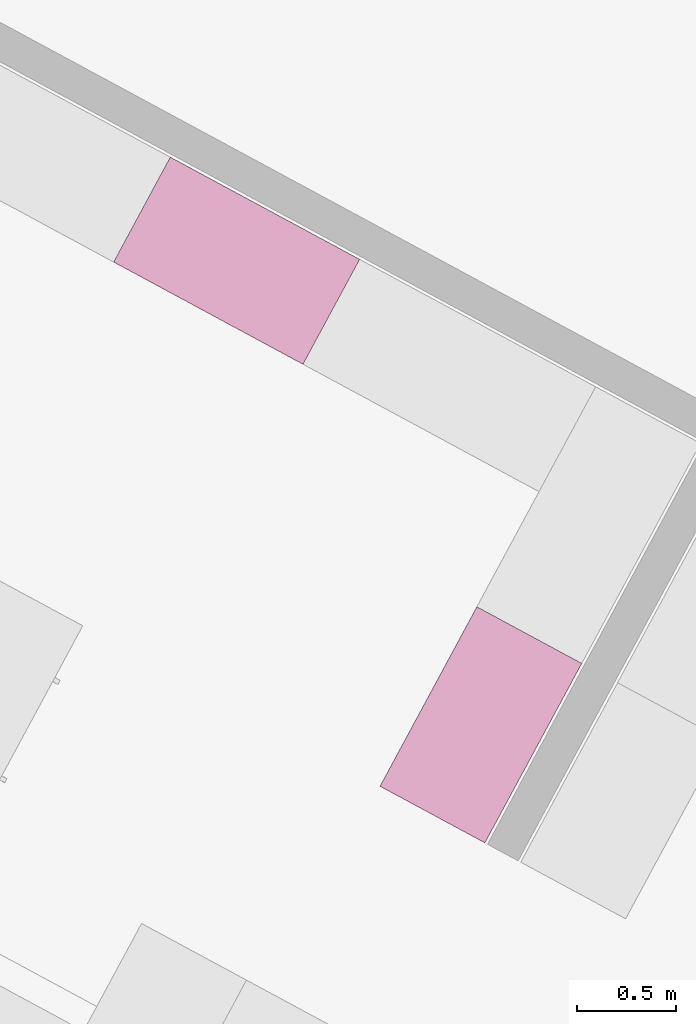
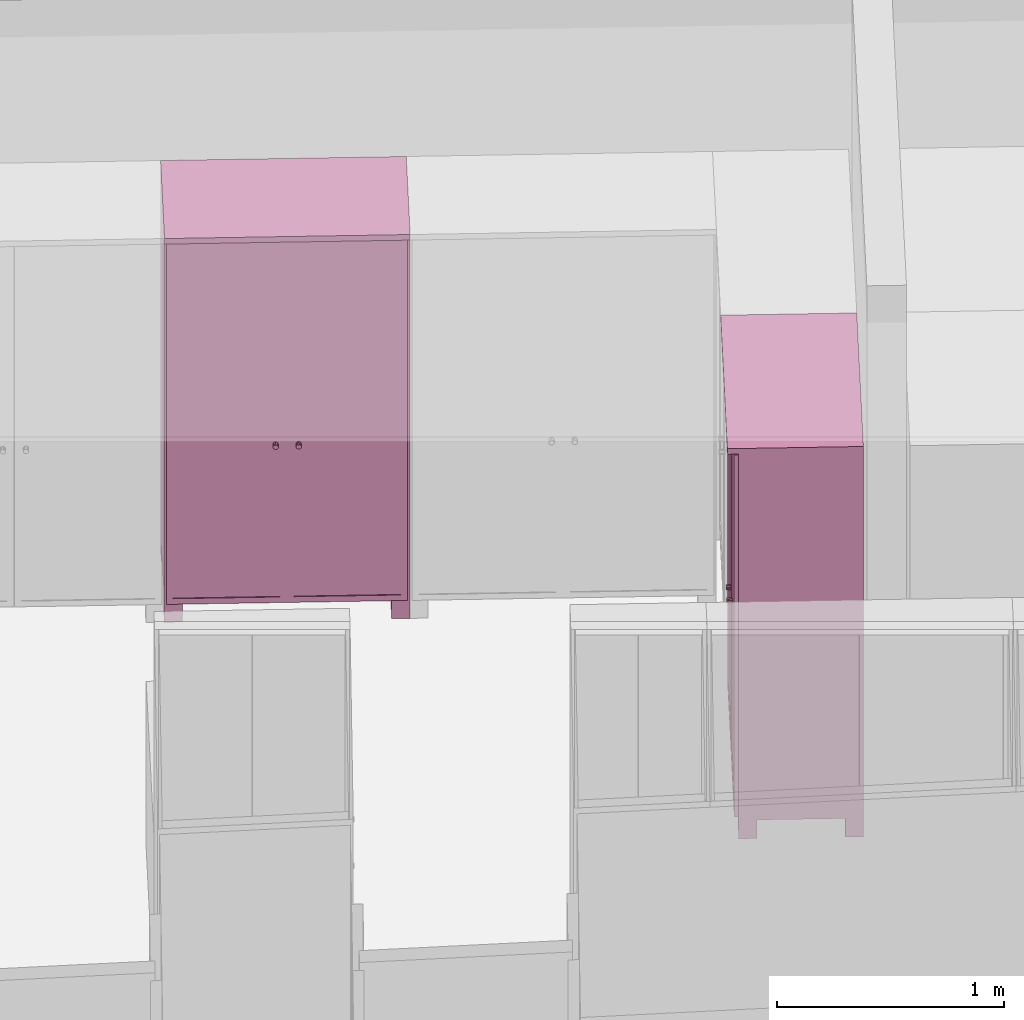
# One storey, part 32 of 41: 2 furnishings.
"""IFC2X3 building model written with IfcOpenShell, lengths in metres."""

from ifc_helpers import new_model, entity, si_unit, converted_unit, derived_unit, money_unit, direction, frame, origin_with_axes, place, context, subcontext, project, spatial, faceted_brep, type_object, element, save


model = new_model("IFC2X3")

# Units and contexts
model_context = context("Model", 3, precision=1e-05, world=origin_with_axes(), true_north=direction((0.0, 1.0)))
body_context = subcontext(model_context, "Body", "Model", "MODEL_VIEW")
ifc_project = project(units=[si_unit("LENGTHUNIT", "METRE"), si_unit("AREAUNIT", "SQUARE_METRE"), si_unit("VOLUMEUNIT", "CUBIC_METRE"), converted_unit("PLANEANGLEUNIT", "DEGREE", entity("IfcPlaneAngleMeasure", 0.0174532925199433), si_unit("PLANEANGLEUNIT", "RADIAN"), dimensions=[0, 0, 0, 0, 0, 0, 0]), money_unit("EUR"), converted_unit("TIMEUNIT", "Year", entity("IfcTimeMeasure", 31556926.0), si_unit("TIMEUNIT", "SECOND"), dimensions=[0, 0, 1, 0, 0, 0, 0]), si_unit("MASSUNIT", "GRAM", prefix="KILO"), si_unit("THERMODYNAMICTEMPERATUREUNIT", "DEGREE_CELSIUS"), si_unit("LUMINOUSINTENSITYUNIT", "LUMEN"), si_unit("ENERGYUNIT", "JOULE", prefix="MEGA"), derived_unit("THERMALCONDUCTANCEUNIT", [(si_unit("POWERUNIT", "WATT"), 1), (si_unit("LENGTHUNIT", "METRE"), -1), (si_unit("THERMODYNAMICTEMPERATUREUNIT", "KELVIN"), -1)]), derived_unit("SPECIFICHEATCAPACITYUNIT", [(si_unit("ENERGYUNIT", "JOULE"), 1), (si_unit("MASSUNIT", "GRAM", prefix="KILO"), -1), (si_unit("THERMODYNAMICTEMPERATUREUNIT", "KELVIN"), -1)]), derived_unit("MASSDENSITYUNIT", [(si_unit("MASSUNIT", "GRAM", prefix="KILO"), 1), (si_unit("VOLUMEUNIT", "CUBIC_METRE"), -1)])], contexts=[model_context])

# Site, building, storey
site_placement = place(None, frame((-3.949935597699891, 1.740105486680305, 0.0), z_axis=(0.0, 0.0, 1.0), x_axis=(0.8799804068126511, -0.475009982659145, 0.0)))
site = spatial("IfcSite", under=ifc_project, at=site_placement, Name="Gelände", CompositionType="ELEMENT")
building_placement = place(site_placement, origin_with_axes())
building = spatial("IfcBuilding", under=site, at=building_placement, Name="Gebäude", CompositionType="ELEMENT")
storey_placement = place(building_placement, frame((0.0, 0.0, 4.55), z_axis=(0.0, 0.0, 1.0), x_axis=(1.0, 0.0, 0.0)))
storey = spatial("IfcBuildingStorey", under=building, at=storey_placement, Name="Staffelgeschoss", CompositionType="ELEMENT", Elevation=4.55)

# Furnishings
furniture_type = type_object("IfcFurnitureType", Name="Kleiderschrank 22", AssemblyPlace="NOTDEFINED")
furnishing_1_placement = place(storey_placement, frame((15.97849488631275, 4.444526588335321, 0.0), z_axis=(0.0, 0.0, 1.0), x_axis=(0.0, -1.0, 0.0)))
element("IfcFurnishingElement", 1, at=furnishing_1_placement, inside=storey, type_object=furniture_type, Name="Objekt-0066", ObjectType="FURNITURE", context=body_context, shape_type="Brep", body=[
    faceted_brep([(0.02000000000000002, 0.6000000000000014, 0.12), (0.02000000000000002, 0.5800000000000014, 0.12), (0.02000000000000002, 0.5800000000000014, 2.05), (0.02000000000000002, 0.6000000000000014, 2.05), (1.006465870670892, 0.6000000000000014, 0.12), (1.006465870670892, 0.5800000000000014, 0.12), (1.006465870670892, 0.5800000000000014, 2.05), (1.006465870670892, 0.6000000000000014, 2.05)], [[[0, 1, 2, 3]], [[0, 4, 5, 1]], [[1, 5, 6, 2]], [[3, 2, 6, 7]], [[4, 0, 3, 7]], [[5, 4, 7, 6]]]),
    faceted_brep([(1.026465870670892, 0.05000000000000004, 0.1), (1.006465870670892, 0.05000000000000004, 0.1), (1.006465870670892, 0.6000000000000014, 0.1), (1.026465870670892, 0.6000000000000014, 0.1), (1.026465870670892, 0.05000000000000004, 2.07), (1.006465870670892, 0.05000000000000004, 2.07), (1.006465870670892, 0.6000000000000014, 2.07), (1.026465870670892, 0.6000000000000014, 2.07)], [[[0, 1, 2, 3]], [[1, 0, 4, 5]], [[2, 1, 5, 6]], [[3, 2, 6, 7]], [[0, 3, 7, 4]], [[5, 4, 7, 6]]]),
    faceted_brep([(0.02, 0.05000000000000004, 0.1), (0.0, 0.05000000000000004, 0.1), (0.0, 0.6000000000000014, 0.1), (0.02, 0.6000000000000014, 0.1), (0.02, 0.05000000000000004, 2.07), (0.0, 0.05000000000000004, 2.07), (0.0, 0.6000000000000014, 2.07), (0.02, 0.6000000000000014, 2.07)], [[[0, 1, 2, 3]], [[1, 0, 4, 5]], [[2, 1, 5, 6]], [[3, 2, 6, 7]], [[0, 3, 7, 4]], [[5, 4, 7, 6]]]),
    faceted_brep([(1.006465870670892, 0.05000000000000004, 0.1), (0.02000000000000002, 0.05000000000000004, 0.1), (0.02000000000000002, 0.6000000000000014, 0.1), (1.006465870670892, 0.6000000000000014, 0.1), (1.006465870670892, 0.05000000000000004, 0.12), (0.02000000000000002, 0.05000000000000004, 0.12), (0.02000000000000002, 0.6000000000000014, 0.12), (1.006465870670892, 0.6000000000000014, 0.12)], [[[0, 1, 2, 3]], [[1, 0, 4, 5]], [[2, 1, 5, 6]], [[3, 2, 6, 7]], [[0, 3, 7, 4]], [[5, 4, 7, 6]]]),
    faceted_brep([(1.006465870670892, 0.05000000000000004, 2.05), (0.02000000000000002, 0.05000000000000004, 2.05), (0.02000000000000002, 0.6000000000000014, 2.05), (1.006465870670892, 0.6000000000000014, 2.05), (1.006465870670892, 0.05000000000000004, 2.07), (0.02000000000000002, 0.05000000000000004, 2.07), (0.02000000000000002, 0.6000000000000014, 2.07), (1.006465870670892, 0.6000000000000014, 2.07)], [[[0, 1, 2, 3]], [[1, 0, 4, 5]], [[2, 1, 5, 6]], [[3, 2, 6, 7]], [[0, 3, 7, 4]], [[5, 4, 7, 6]]]),
    faceted_brep([(1.026465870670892, 0.6000000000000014, 2.07), (1.026465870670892, 0.6000000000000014, 2.1), (1.026465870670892, 0.0, 2.1), (1.026465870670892, 0.0, 2.07), (0.0, 0.6000000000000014, 2.07), (0.0, 0.6000000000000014, 2.1), (0.0, 0.0, 2.1), (0.0, 0.0, 2.07)], [[[0, 1, 2, 3]], [[4, 5, 1, 0]], [[1, 5, 6, 2]], [[3, 2, 6, 7]], [[0, 3, 7, 4]], [[7, 6, 5, 4]]]),
    faceted_brep([(0.07999999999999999, 0.5200000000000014, 0.0), (0.07999999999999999, 0.6000000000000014, 0.0), (0.07999999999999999, 0.6000000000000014, 0.1), (0.07999999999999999, 0.5200000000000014, 0.1), (0.0, 0.5200000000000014, 0.0), (0.0, 0.6000000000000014, 0.0), (0.0, 0.6000000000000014, 0.1), (0.0, 0.5200000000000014, 0.1)], [[[0, 1, 2, 3]], [[0, 4, 5, 1]], [[1, 5, 6, 2]], [[3, 2, 6, 7]], [[4, 0, 3, 7]], [[5, 4, 7, 6]]]),
    faceted_brep([(1.026465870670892, 0.5200000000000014, 0.0), (1.026465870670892, 0.6000000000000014, 0.0), (1.026465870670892, 0.6000000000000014, 0.1), (1.026465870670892, 0.5200000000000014, 0.1), (0.9464658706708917, 0.5200000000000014, 0.0), (0.9464658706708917, 0.6000000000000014, 0.0), (0.9464658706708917, 0.6000000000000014, 0.1), (0.9464658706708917, 0.5200000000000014, 0.1)], [[[0, 1, 2, 3]], [[0, 4, 5, 1]], [[1, 5, 6, 2]], [[3, 2, 6, 7]], [[4, 0, 3, 7]], [[5, 4, 7, 6]]]),
    faceted_brep([(0.07999999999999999, 0.05000000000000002, 0.0), (0.07999999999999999, 0.13, 0.0), (0.07999999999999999, 0.13, 0.1), (0.07999999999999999, 0.05000000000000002, 0.1), (0.0, 0.05000000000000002, 0.0), (0.0, 0.13, 0.0), (0.0, 0.13, 0.1), (0.0, 0.05000000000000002, 0.1)], [[[0, 1, 2, 3]], [[0, 4, 5, 1]], [[1, 5, 6, 2]], [[3, 2, 6, 7]], [[4, 0, 3, 7]], [[5, 4, 7, 6]]]),
    faceted_brep([(1.026465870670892, 0.05000000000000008, 0.0), (1.026465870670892, 0.1300000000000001, 0.0), (1.026465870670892, 0.1300000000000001, 0.1), (1.026465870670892, 0.05000000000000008, 0.1), (0.9464658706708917, 0.05000000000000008, 0.0), (0.9464658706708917, 0.1300000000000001, 0.0), (0.9464658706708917, 0.1300000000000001, 0.1), (0.9464658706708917, 0.05000000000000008, 0.1)], [[[0, 1, 2, 3]], [[0, 4, 5, 1]], [[1, 5, 6, 2]], [[3, 2, 6, 7]], [[4, 0, 3, 7]], [[5, 4, 7, 6]]]),
    faceted_brep([(0.512732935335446, 0.05, 0.1104999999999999), (0.512732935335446, 0.05000000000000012, 2.0595), (0.512732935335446, 0.03000000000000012, 2.0595), (0.512732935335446, 0.03, 0.1104999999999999), (0.4827329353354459, 0.05, 0.1405), (0.4827329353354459, 0.05000000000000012, 2.0295), (0.4827329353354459, 0.03000000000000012, 2.0295), (0.4827329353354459, 0.03000000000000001, 0.1405)], [[[0, 1, 2, 3]], [[0, 4, 5, 1]], [[1, 5, 6, 2]], [[3, 2, 6, 7]], [[4, 0, 3, 7]], [[5, 4, 7, 6]]]),
    faceted_brep([(0.04050000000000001, 0.05, 0.1405), (0.04050000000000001, 0.05000000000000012, 2.0295), (0.04050000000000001, 0.03000000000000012, 2.0295), (0.04050000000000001, 0.03000000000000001, 0.1405), (0.01050000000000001, 0.05, 0.1104999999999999), (0.01050000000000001, 0.05000000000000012, 2.0595), (0.01050000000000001, 0.03000000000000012, 2.0595), (0.01050000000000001, 0.03, 0.1104999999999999)], [[[0, 1, 2, 3]], [[0, 4, 5, 1]], [[1, 5, 6, 2]], [[3, 2, 6, 7]], [[4, 0, 3, 7]], [[5, 4, 7, 6]]]),
    faceted_brep([(0.01050000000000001, 0.05, 0.1104999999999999), (0.512732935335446, 0.05, 0.1104999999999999), (0.512732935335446, 0.03, 0.1104999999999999), (0.01050000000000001, 0.03, 0.1104999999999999), (0.04050000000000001, 0.05, 0.1405), (0.4827329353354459, 0.05, 0.1405), (0.4827329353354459, 0.03000000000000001, 0.1405), (0.04050000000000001, 0.03000000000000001, 0.1405)], [[[0, 1, 2, 3]], [[0, 4, 5, 1]], [[1, 5, 6, 2]], [[3, 2, 6, 7]], [[4, 0, 3, 7]], [[5, 4, 7, 6]]]),
    faceted_brep([(0.04050000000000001, 0.05000000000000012, 2.0295), (0.4827329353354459, 0.05000000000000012, 2.0295), (0.4827329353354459, 0.03000000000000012, 2.0295), (0.04050000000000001, 0.03000000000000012, 2.0295), (0.01050000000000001, 0.05000000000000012, 2.0595), (0.512732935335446, 0.05000000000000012, 2.0595), (0.512732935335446, 0.03000000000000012, 2.0595), (0.01050000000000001, 0.03000000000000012, 2.0595)], [[[0, 1, 2, 3]], [[0, 4, 5, 1]], [[1, 5, 6, 2]], [[3, 2, 6, 7]], [[4, 0, 3, 7]], [[5, 4, 7, 6]]]),
    faceted_brep([(0.4827329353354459, 0.04500000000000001, 0.1405), (0.4827329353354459, 0.04500000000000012, 2.0295), (0.4827329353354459, 0.03500000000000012, 2.0295), (0.4827329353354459, 0.035, 0.1405), (0.04050000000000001, 0.04500000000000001, 0.1405), (0.04050000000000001, 0.04500000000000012, 2.0295), (0.04050000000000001, 0.03500000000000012, 2.0295), (0.04050000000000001, 0.035, 0.1405)], [[[0, 1, 2, 3]], [[0, 4, 5, 1]], [[1, 5, 6, 2]], [[3, 2, 6, 7]], [[4, 0, 3, 7]], [[5, 4, 7, 6]]]),
    faceted_brep([(0.4726252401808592, 0.035, 0.954), (0.4682329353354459, 0.035, 0.9496076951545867), (0.4622329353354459, 0.035, 0.948), (0.4562329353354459, 0.035, 0.9496076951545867), (0.4518406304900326, 0.035, 0.954), (0.4502329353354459, 0.035, 0.96), (0.4518406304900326, 0.035, 0.966), (0.4562329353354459, 0.035, 0.9703923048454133), (0.4622329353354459, 0.035, 0.972), (0.4682329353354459, 0.035, 0.9703923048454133), (0.4726252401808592, 0.035, 0.966), (0.4742329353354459, 0.035, 0.96), (0.4726252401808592, 0.01, 0.954), (0.4682329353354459, 0.01, 0.9496076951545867), (0.4622329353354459, 0.01, 0.948), (0.4562329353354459, 0.01, 0.9496076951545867), (0.4518406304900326, 0.01, 0.954), (0.4502329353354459, 0.01, 0.96), (0.4518406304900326, 0.01, 0.966), (0.4562329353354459, 0.01, 0.9703923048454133), (0.4622329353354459, 0.01, 0.972), (0.4682329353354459, 0.01, 0.9703923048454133), (0.4726252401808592, 0.01, 0.966), (0.4742329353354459, 0.01, 0.96)], [[[0, 1, 2, 3, 4, 5, 6, 7, 8, 9, 10, 11]], [[1, 0, 12, 13]], [[2, 1, 13, 14]], [[3, 2, 14, 15]], [[4, 3, 15, 16]], [[5, 4, 16, 17]], [[6, 5, 17, 18]], [[7, 6, 18, 19]], [[8, 7, 19, 20]], [[9, 8, 20, 21]], [[10, 9, 21, 22]], [[11, 10, 22, 23]], [[0, 11, 23, 12]], [[12, 23, 22, 21, 20, 19, 18, 17, 16, 15, 14, 13]]]),
    faceted_brep([(1.016965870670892, 0.05, 0.1104999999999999), (1.016965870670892, 0.05000000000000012, 2.0595), (1.016965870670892, 0.03000000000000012, 2.0595), (1.016965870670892, 0.03, 0.1104999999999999), (0.9869658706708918, 0.05, 0.1405), (0.9869658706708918, 0.05000000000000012, 2.0295), (0.9869658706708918, 0.03000000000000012, 2.0295), (0.9869658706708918, 0.03000000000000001, 0.1405)], [[[0, 1, 2, 3]], [[0, 4, 5, 1]], [[1, 5, 6, 2]], [[3, 2, 6, 7]], [[4, 0, 3, 7]], [[5, 4, 7, 6]]]),
    faceted_brep([(0.5447329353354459, 0.05, 0.1405), (0.5447329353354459, 0.05000000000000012, 2.0295), (0.5447329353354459, 0.03000000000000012, 2.0295), (0.5447329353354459, 0.03000000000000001, 0.1405), (0.514732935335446, 0.05, 0.1104999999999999), (0.514732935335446, 0.05000000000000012, 2.0595), (0.514732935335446, 0.03000000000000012, 2.0595), (0.514732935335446, 0.03, 0.1104999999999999)], [[[0, 1, 2, 3]], [[0, 4, 5, 1]], [[1, 5, 6, 2]], [[3, 2, 6, 7]], [[4, 0, 3, 7]], [[5, 4, 7, 6]]]),
    faceted_brep([(0.514732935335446, 0.05, 0.1104999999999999), (1.016965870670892, 0.05, 0.1104999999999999), (1.016965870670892, 0.03, 0.1104999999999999), (0.514732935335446, 0.03, 0.1104999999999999), (0.5447329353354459, 0.05, 0.1405), (0.9869658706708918, 0.05, 0.1405), (0.9869658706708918, 0.03000000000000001, 0.1405), (0.5447329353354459, 0.03000000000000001, 0.1405)], [[[0, 1, 2, 3]], [[0, 4, 5, 1]], [[1, 5, 6, 2]], [[3, 2, 6, 7]], [[4, 0, 3, 7]], [[5, 4, 7, 6]]]),
    faceted_brep([(0.5447329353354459, 0.05000000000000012, 2.0295), (0.9869658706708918, 0.05000000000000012, 2.0295), (0.9869658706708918, 0.03000000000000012, 2.0295), (0.5447329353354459, 0.03000000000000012, 2.0295), (0.514732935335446, 0.05000000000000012, 2.0595), (1.016965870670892, 0.05000000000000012, 2.0595), (1.016965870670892, 0.03000000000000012, 2.0595), (0.514732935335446, 0.03000000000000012, 2.0595)], [[[0, 1, 2, 3]], [[0, 4, 5, 1]], [[1, 5, 6, 2]], [[3, 2, 6, 7]], [[4, 0, 3, 7]], [[5, 4, 7, 6]]]),
    faceted_brep([(0.9869658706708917, 0.04500000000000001, 0.1405), (0.9869658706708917, 0.04500000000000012, 2.0295), (0.9869658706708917, 0.04000000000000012, 2.0295), (0.9869658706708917, 0.04000000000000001, 0.1405), (0.5447329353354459, 0.04500000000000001, 0.1405), (0.5447329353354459, 0.04500000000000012, 2.0295), (0.5447329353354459, 0.04000000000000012, 2.0295), (0.5447329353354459, 0.04000000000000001, 0.1405)], [[[0, 1, 2, 3]], [[0, 4, 5, 1]], [[1, 5, 6, 2]], [[3, 2, 6, 7]], [[4, 0, 3, 7]], [[5, 4, 7, 6]]]),
    faceted_brep([(0.9869658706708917, 0.04000000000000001, 0.1405), (0.9869658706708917, 0.04000000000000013, 2.0295), (0.9869658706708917, 0.03500000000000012, 2.0295), (0.9869658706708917, 0.03500000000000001, 0.1405), (0.5447329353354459, 0.04000000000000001, 0.1405), (0.5447329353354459, 0.04000000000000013, 2.0295), (0.5447329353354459, 0.03500000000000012, 2.0295), (0.5447329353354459, 0.03500000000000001, 0.1405)], [[[0, 1, 2, 3]], [[0, 4, 5, 1]], [[1, 5, 6, 2]], [[3, 2, 6, 7]], [[4, 0, 3, 7]], [[5, 4, 7, 6]]]),
    faceted_brep([(0.5538406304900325, 0.035, 0.954), (0.5522329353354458, 0.035, 0.96), (0.5538406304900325, 0.035, 0.966), (0.5582329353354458, 0.035, 0.9703923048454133), (0.5642329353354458, 0.035, 0.972), (0.5702329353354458, 0.035, 0.9703923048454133), (0.5746252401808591, 0.035, 0.966), (0.5762329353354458, 0.035, 0.96), (0.5746252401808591, 0.035, 0.954), (0.5702329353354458, 0.035, 0.9496076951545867), (0.5642329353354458, 0.035, 0.948), (0.5582329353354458, 0.035, 0.9496076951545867), (0.5538406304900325, 0.01, 0.954), (0.5522329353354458, 0.01, 0.96), (0.5538406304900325, 0.01, 0.966), (0.5582329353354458, 0.01, 0.9703923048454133), (0.5642329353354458, 0.01, 0.972), (0.5702329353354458, 0.01, 0.9703923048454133), (0.5746252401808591, 0.01, 0.966), (0.5762329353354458, 0.01, 0.96), (0.5746252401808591, 0.01, 0.954), (0.5702329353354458, 0.01, 0.9496076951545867), (0.5642329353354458, 0.01, 0.948), (0.5582329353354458, 0.01, 0.9496076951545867)], [[[0, 1, 2, 3, 4, 5, 6, 7, 8, 9, 10, 11]], [[0, 12, 13, 1]], [[1, 13, 14, 2]], [[2, 14, 15, 3]], [[3, 15, 16, 4]], [[4, 16, 17, 5]], [[5, 17, 18, 6]], [[6, 18, 19, 7]], [[7, 19, 20, 8]], [[8, 20, 21, 9]], [[9, 21, 22, 10]], [[10, 22, 23, 11]], [[11, 23, 12, 0]], [[12, 23, 22, 21, 20, 19, 18, 17, 16, 15, 14, 13]]]),
])
furnishing_2_placement = place(storey_placement, frame((14.62849488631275, 5.103060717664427, 0.0), z_axis=(0.0, 0.0, 1.0), x_axis=(1.0, 0.0, 0.0)))
element("IfcFurnishingElement", 2, at=furnishing_2_placement, inside=storey, type_object=furniture_type, Name="Objekt-0066", ObjectType="FURNITURE", context=body_context, shape_type="Brep", body=[
    faceted_brep([(-0.02000000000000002, 0.6000000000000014, 0.12), (-0.02000000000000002, 0.6000000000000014, 2.05), (-0.02000000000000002, 0.5800000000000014, 2.05), (-0.02000000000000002, 0.5800000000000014, 0.12), (-1.06329932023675, 0.6000000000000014, 0.12), (-1.06329932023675, 0.6000000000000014, 2.05), (-1.06329932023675, 0.5800000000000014, 2.05), (-1.06329932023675, 0.5800000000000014, 0.12)], [[[0, 1, 2, 3]], [[4, 5, 1, 0]], [[1, 5, 6, 2]], [[3, 2, 6, 7]], [[0, 3, 7, 4]], [[7, 6, 5, 4]]]),
    faceted_brep([(-1.08329932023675, 0.05000000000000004, 0.1), (-1.08329932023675, 0.6000000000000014, 0.1), (-1.06329932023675, 0.6000000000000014, 0.1), (-1.06329932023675, 0.05000000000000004, 0.1), (-1.08329932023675, 0.05000000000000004, 2.07), (-1.08329932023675, 0.6000000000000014, 2.07), (-1.06329932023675, 0.6000000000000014, 2.07), (-1.06329932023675, 0.05000000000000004, 2.07)], [[[0, 1, 2, 3]], [[0, 4, 5, 1]], [[1, 5, 6, 2]], [[2, 6, 7, 3]], [[3, 7, 4, 0]], [[7, 6, 5, 4]]]),
    faceted_brep([(-0.02, 0.05000000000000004, 0.1), (-0.02, 0.6000000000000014, 0.1), (0.0, 0.6000000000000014, 0.1), (0.0, 0.05000000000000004, 0.1), (-0.02, 0.05000000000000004, 2.07), (-0.02, 0.6000000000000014, 2.07), (0.0, 0.6000000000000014, 2.07), (0.0, 0.05000000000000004, 2.07)], [[[0, 1, 2, 3]], [[0, 4, 5, 1]], [[1, 5, 6, 2]], [[2, 6, 7, 3]], [[3, 7, 4, 0]], [[7, 6, 5, 4]]]),
    faceted_brep([(-1.06329932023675, 0.05000000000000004, 0.1), (-1.06329932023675, 0.6000000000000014, 0.1), (-0.02000000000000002, 0.6000000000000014, 0.1), (-0.02000000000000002, 0.05000000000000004, 0.1), (-1.06329932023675, 0.05000000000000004, 0.12), (-1.06329932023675, 0.6000000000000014, 0.12), (-0.02000000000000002, 0.6000000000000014, 0.12), (-0.02000000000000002, 0.05000000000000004, 0.12)], [[[0, 1, 2, 3]], [[0, 4, 5, 1]], [[1, 5, 6, 2]], [[2, 6, 7, 3]], [[3, 7, 4, 0]], [[7, 6, 5, 4]]]),
    faceted_brep([(-1.06329932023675, 0.05000000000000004, 2.05), (-1.06329932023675, 0.6000000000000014, 2.05), (-0.02000000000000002, 0.6000000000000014, 2.05), (-0.02000000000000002, 0.05000000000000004, 2.05), (-1.06329932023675, 0.05000000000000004, 2.07), (-1.06329932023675, 0.6000000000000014, 2.07), (-0.02000000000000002, 0.6000000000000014, 2.07), (-0.02000000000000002, 0.05000000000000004, 2.07)], [[[0, 1, 2, 3]], [[0, 4, 5, 1]], [[1, 5, 6, 2]], [[2, 6, 7, 3]], [[3, 7, 4, 0]], [[7, 6, 5, 4]]]),
    faceted_brep([(-1.08329932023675, 0.6000000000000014, 2.07), (-1.08329932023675, 0.0, 2.07), (-1.08329932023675, 0.0, 2.1), (-1.08329932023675, 0.6000000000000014, 2.1), (0.0, 0.6000000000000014, 2.07), (0.0, 0.0, 2.07), (0.0, 0.0, 2.1), (0.0, 0.6000000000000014, 2.1)], [[[0, 1, 2, 3]], [[0, 4, 5, 1]], [[1, 5, 6, 2]], [[3, 2, 6, 7]], [[4, 0, 3, 7]], [[5, 4, 7, 6]]]),
    faceted_brep([(-0.08000000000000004, 0.5200000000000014, 0.0), (-0.08000000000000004, 0.5200000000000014, 0.1), (-0.08000000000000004, 0.6000000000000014, 0.1), (-0.08000000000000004, 0.6000000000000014, 0.0), (0.0, 0.5200000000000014, 0.0), (0.0, 0.5200000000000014, 0.1), (0.0, 0.6000000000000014, 0.1), (0.0, 0.6000000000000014, 0.0)], [[[0, 1, 2, 3]], [[4, 5, 1, 0]], [[1, 5, 6, 2]], [[3, 2, 6, 7]], [[0, 3, 7, 4]], [[7, 6, 5, 4]]]),
    faceted_brep([(-1.08329932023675, 0.5200000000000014, 0.0), (-1.08329932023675, 0.5200000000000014, 0.1), (-1.08329932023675, 0.6000000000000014, 0.1), (-1.08329932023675, 0.6000000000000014, 0.0), (-1.00329932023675, 0.5200000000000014, 0.0), (-1.00329932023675, 0.5200000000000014, 0.1), (-1.00329932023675, 0.6000000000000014, 0.1), (-1.00329932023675, 0.6000000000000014, 0.0)], [[[0, 1, 2, 3]], [[4, 5, 1, 0]], [[1, 5, 6, 2]], [[3, 2, 6, 7]], [[0, 3, 7, 4]], [[7, 6, 5, 4]]]),
    faceted_brep([(-0.08000000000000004, 0.05000000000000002, 0.0), (-0.08000000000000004, 0.05000000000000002, 0.1), (-0.08000000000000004, 0.13, 0.1), (-0.08000000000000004, 0.13, 0.0), (0.0, 0.05000000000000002, 0.0), (0.0, 0.05000000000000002, 0.1), (0.0, 0.13, 0.1), (0.0, 0.13, 0.0)], [[[0, 1, 2, 3]], [[4, 5, 1, 0]], [[1, 5, 6, 2]], [[3, 2, 6, 7]], [[0, 3, 7, 4]], [[7, 6, 5, 4]]]),
    faceted_brep([(-1.08329932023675, 0.05000000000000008, 0.0), (-1.08329932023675, 0.05000000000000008, 0.1), (-1.08329932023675, 0.1300000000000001, 0.1), (-1.08329932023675, 0.1300000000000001, 0.0), (-1.00329932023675, 0.05000000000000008, 0.0), (-1.00329932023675, 0.05000000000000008, 0.1), (-1.00329932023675, 0.1300000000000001, 0.1), (-1.00329932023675, 0.1300000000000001, 0.0)], [[[0, 1, 2, 3]], [[4, 5, 1, 0]], [[1, 5, 6, 2]], [[3, 2, 6, 7]], [[0, 3, 7, 4]], [[7, 6, 5, 4]]]),
    faceted_brep([(-0.541149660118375, 0.05, 0.1104999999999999), (-0.541149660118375, 0.03, 0.1104999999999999), (-0.541149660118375, 0.03000000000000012, 2.0595), (-0.541149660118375, 0.05000000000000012, 2.0595), (-0.5111496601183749, 0.05, 0.1405), (-0.5111496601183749, 0.03000000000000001, 0.1405), (-0.5111496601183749, 0.03000000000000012, 2.0295), (-0.5111496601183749, 0.05000000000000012, 2.0295)], [[[0, 1, 2, 3]], [[4, 5, 1, 0]], [[1, 5, 6, 2]], [[3, 2, 6, 7]], [[0, 3, 7, 4]], [[7, 6, 5, 4]]]),
    faceted_brep([(-0.04050000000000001, 0.05, 0.1405), (-0.04050000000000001, 0.03000000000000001, 0.1405), (-0.04050000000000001, 0.03000000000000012, 2.0295), (-0.04050000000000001, 0.05000000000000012, 2.0295), (-0.01050000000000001, 0.05, 0.1104999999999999), (-0.01050000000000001, 0.03, 0.1104999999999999), (-0.01050000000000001, 0.03000000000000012, 2.0595), (-0.01050000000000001, 0.05000000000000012, 2.0595)], [[[0, 1, 2, 3]], [[4, 5, 1, 0]], [[1, 5, 6, 2]], [[3, 2, 6, 7]], [[0, 3, 7, 4]], [[7, 6, 5, 4]]]),
    faceted_brep([(-0.01050000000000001, 0.05, 0.1104999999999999), (-0.01050000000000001, 0.03, 0.1104999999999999), (-0.541149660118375, 0.03, 0.1104999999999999), (-0.541149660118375, 0.05, 0.1104999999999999), (-0.04050000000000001, 0.05, 0.1405), (-0.04050000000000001, 0.03000000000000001, 0.1405), (-0.5111496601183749, 0.03000000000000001, 0.1405), (-0.5111496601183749, 0.05, 0.1405)], [[[0, 1, 2, 3]], [[4, 5, 1, 0]], [[1, 5, 6, 2]], [[3, 2, 6, 7]], [[0, 3, 7, 4]], [[7, 6, 5, 4]]]),
    faceted_brep([(-0.04050000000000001, 0.05000000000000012, 2.0295), (-0.04050000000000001, 0.03000000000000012, 2.0295), (-0.5111496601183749, 0.03000000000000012, 2.0295), (-0.5111496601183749, 0.05000000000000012, 2.0295), (-0.01050000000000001, 0.05000000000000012, 2.0595), (-0.01050000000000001, 0.03000000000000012, 2.0595), (-0.541149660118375, 0.03000000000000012, 2.0595), (-0.541149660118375, 0.05000000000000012, 2.0595)], [[[0, 1, 2, 3]], [[4, 5, 1, 0]], [[1, 5, 6, 2]], [[3, 2, 6, 7]], [[0, 3, 7, 4]], [[7, 6, 5, 4]]]),
    faceted_brep([(-0.5111496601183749, 0.04500000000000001, 0.1405), (-0.5111496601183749, 0.035, 0.1405), (-0.5111496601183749, 0.03500000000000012, 2.0295), (-0.5111496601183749, 0.04500000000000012, 2.0295), (-0.04050000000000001, 0.04500000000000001, 0.1405), (-0.04050000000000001, 0.035, 0.1405), (-0.04050000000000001, 0.03500000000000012, 2.0295), (-0.04050000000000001, 0.04500000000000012, 2.0295)], [[[0, 1, 2, 3]], [[4, 5, 1, 0]], [[1, 5, 6, 2]], [[3, 2, 6, 7]], [[0, 3, 7, 4]], [[7, 6, 5, 4]]]),
    faceted_brep([(-0.5010419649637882, 0.035, 0.954), (-0.5026496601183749, 0.035, 0.96), (-0.5010419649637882, 0.035, 0.966), (-0.4966496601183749, 0.035, 0.9703923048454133), (-0.4906496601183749, 0.035, 0.972), (-0.4846496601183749, 0.035, 0.9703923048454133), (-0.4802573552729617, 0.035, 0.966), (-0.4786496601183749, 0.035, 0.96), (-0.4802573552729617, 0.035, 0.954), (-0.4846496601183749, 0.035, 0.9496076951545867), (-0.4906496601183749, 0.035, 0.948), (-0.4966496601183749, 0.035, 0.9496076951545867), (-0.5010419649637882, 0.01, 0.954), (-0.5026496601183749, 0.01, 0.96), (-0.5010419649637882, 0.01, 0.966), (-0.4966496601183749, 0.01, 0.9703923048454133), (-0.4906496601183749, 0.01, 0.972), (-0.4846496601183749, 0.01, 0.9703923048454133), (-0.4802573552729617, 0.01, 0.966), (-0.4786496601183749, 0.01, 0.96), (-0.4802573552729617, 0.01, 0.954), (-0.4846496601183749, 0.01, 0.9496076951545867), (-0.4906496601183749, 0.01, 0.948), (-0.4966496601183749, 0.01, 0.9496076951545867)], [[[0, 1, 2, 3, 4, 5, 6, 7, 8, 9, 10, 11]], [[0, 12, 13, 1]], [[1, 13, 14, 2]], [[2, 14, 15, 3]], [[3, 15, 16, 4]], [[4, 16, 17, 5]], [[5, 17, 18, 6]], [[6, 18, 19, 7]], [[7, 19, 20, 8]], [[8, 20, 21, 9]], [[9, 21, 22, 10]], [[10, 22, 23, 11]], [[11, 23, 12, 0]], [[12, 23, 22, 21, 20, 19, 18, 17, 16, 15, 14, 13]]]),
    faceted_brep([(-1.07379932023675, 0.05, 0.1104999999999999), (-1.07379932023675, 0.03, 0.1104999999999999), (-1.07379932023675, 0.03000000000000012, 2.0595), (-1.07379932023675, 0.05000000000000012, 2.0595), (-1.04379932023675, 0.05, 0.1405), (-1.04379932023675, 0.03000000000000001, 0.1405), (-1.04379932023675, 0.03000000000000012, 2.0295), (-1.04379932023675, 0.05000000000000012, 2.0295)], [[[0, 1, 2, 3]], [[4, 5, 1, 0]], [[1, 5, 6, 2]], [[3, 2, 6, 7]], [[0, 3, 7, 4]], [[7, 6, 5, 4]]]),
    faceted_brep([(-0.5731496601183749, 0.05, 0.1405), (-0.5731496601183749, 0.03000000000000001, 0.1405), (-0.5731496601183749, 0.03000000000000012, 2.0295), (-0.5731496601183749, 0.05000000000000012, 2.0295), (-0.543149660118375, 0.05, 0.1104999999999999), (-0.543149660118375, 0.03, 0.1104999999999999), (-0.543149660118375, 0.03000000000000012, 2.0595), (-0.543149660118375, 0.05000000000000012, 2.0595)], [[[0, 1, 2, 3]], [[4, 5, 1, 0]], [[1, 5, 6, 2]], [[3, 2, 6, 7]], [[0, 3, 7, 4]], [[7, 6, 5, 4]]]),
    faceted_brep([(-0.543149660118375, 0.05, 0.1104999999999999), (-0.543149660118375, 0.03, 0.1104999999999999), (-1.07379932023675, 0.03, 0.1104999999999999), (-1.07379932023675, 0.05, 0.1104999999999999), (-0.5731496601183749, 0.05, 0.1405), (-0.5731496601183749, 0.03000000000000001, 0.1405), (-1.04379932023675, 0.03000000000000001, 0.1405), (-1.04379932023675, 0.05, 0.1405)], [[[0, 1, 2, 3]], [[4, 5, 1, 0]], [[1, 5, 6, 2]], [[3, 2, 6, 7]], [[0, 3, 7, 4]], [[7, 6, 5, 4]]]),
    faceted_brep([(-0.5731496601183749, 0.05000000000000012, 2.0295), (-0.5731496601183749, 0.03000000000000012, 2.0295), (-1.04379932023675, 0.03000000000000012, 2.0295), (-1.04379932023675, 0.05000000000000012, 2.0295), (-0.543149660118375, 0.05000000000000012, 2.0595), (-0.543149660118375, 0.03000000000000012, 2.0595), (-1.07379932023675, 0.03000000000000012, 2.0595), (-1.07379932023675, 0.05000000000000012, 2.0595)], [[[0, 1, 2, 3]], [[4, 5, 1, 0]], [[1, 5, 6, 2]], [[3, 2, 6, 7]], [[0, 3, 7, 4]], [[7, 6, 5, 4]]]),
    faceted_brep([(-1.04379932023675, 0.04500000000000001, 0.1405), (-1.04379932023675, 0.04000000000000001, 0.1405), (-1.04379932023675, 0.04000000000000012, 2.0295), (-1.04379932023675, 0.04500000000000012, 2.0295), (-0.5731496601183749, 0.04500000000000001, 0.1405), (-0.5731496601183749, 0.04000000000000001, 0.1405), (-0.5731496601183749, 0.04000000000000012, 2.0295), (-0.5731496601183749, 0.04500000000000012, 2.0295)], [[[0, 1, 2, 3]], [[4, 5, 1, 0]], [[1, 5, 6, 2]], [[3, 2, 6, 7]], [[0, 3, 7, 4]], [[7, 6, 5, 4]]]),
    faceted_brep([(-1.04379932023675, 0.04000000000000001, 0.1405), (-1.04379932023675, 0.03500000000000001, 0.1405), (-1.04379932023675, 0.03500000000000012, 2.0295), (-1.04379932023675, 0.04000000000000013, 2.0295), (-0.5731496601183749, 0.04000000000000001, 0.1405), (-0.5731496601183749, 0.03500000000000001, 0.1405), (-0.5731496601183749, 0.03500000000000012, 2.0295), (-0.5731496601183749, 0.04000000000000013, 2.0295)], [[[0, 1, 2, 3]], [[4, 5, 1, 0]], [[1, 5, 6, 2]], [[3, 2, 6, 7]], [[0, 3, 7, 4]], [[7, 6, 5, 4]]]),
    faceted_brep([(-0.5822573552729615, 0.035, 0.954), (-0.5866496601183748, 0.035, 0.9496076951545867), (-0.5926496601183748, 0.035, 0.948), (-0.5986496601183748, 0.035, 0.9496076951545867), (-0.6030419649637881, 0.035, 0.954), (-0.6046496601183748, 0.035, 0.96), (-0.6030419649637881, 0.035, 0.966), (-0.5986496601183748, 0.035, 0.9703923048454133), (-0.5926496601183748, 0.035, 0.972), (-0.5866496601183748, 0.035, 0.9703923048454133), (-0.5822573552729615, 0.035, 0.966), (-0.5806496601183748, 0.035, 0.96), (-0.5822573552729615, 0.01, 0.954), (-0.5866496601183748, 0.01, 0.9496076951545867), (-0.5926496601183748, 0.01, 0.948), (-0.5986496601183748, 0.01, 0.9496076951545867), (-0.6030419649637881, 0.01, 0.954), (-0.6046496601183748, 0.01, 0.96), (-0.6030419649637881, 0.01, 0.966), (-0.5986496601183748, 0.01, 0.9703923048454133), (-0.5926496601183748, 0.01, 0.972), (-0.5866496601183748, 0.01, 0.9703923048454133), (-0.5822573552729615, 0.01, 0.966), (-0.5806496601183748, 0.01, 0.96)], [[[0, 1, 2, 3, 4, 5, 6, 7, 8, 9, 10, 11]], [[1, 0, 12, 13]], [[2, 1, 13, 14]], [[3, 2, 14, 15]], [[4, 3, 15, 16]], [[5, 4, 16, 17]], [[6, 5, 17, 18]], [[7, 6, 18, 19]], [[8, 7, 19, 20]], [[9, 8, 20, 21]], [[10, 9, 21, 22]], [[11, 10, 22, 23]], [[0, 11, 23, 12]], [[12, 23, 22, 21, 20, 19, 18, 17, 16, 15, 14, 13]]]),
])

save(model, "model.ifc")
